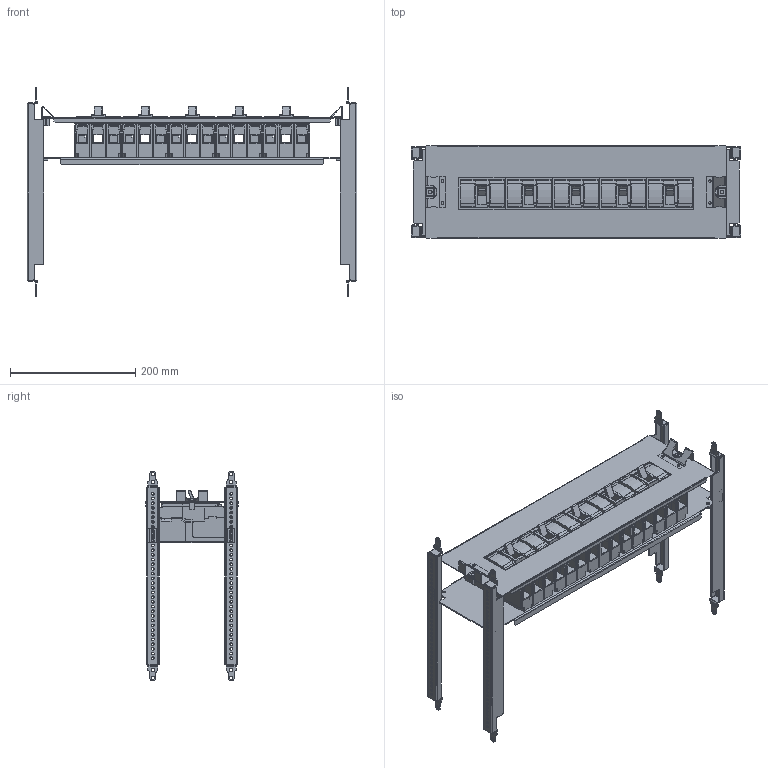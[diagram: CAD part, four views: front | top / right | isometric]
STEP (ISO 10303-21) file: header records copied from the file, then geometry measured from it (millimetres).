
FILE_DESCRIPTION(('CAx-IF Rec.Pracs.---Model Styling and Organization---1.2---2011-12-15','CAx-IF Rec.Pracs.---Geometric and Assembly Validation Properties---4.1---2014-06-16','CAx-IF Rec.Pracs.---PMI Polyline Presentation---2.0---2013-05-24'),'2;1');
FILE_NAME('R5PKIB7V61111.stp','2021-07-29T03:08:16+03:00',(''),(''),'STEP Interface 4.4 by CT CoreTechnologie','3D_Evolution4.4 by CT CoreTechnologie','');
FILE_SCHEMA(('AUTOMOTIVE_DESIGN { 1 0 10303 214 1 1 1 1 }'));
Length unit declared in the file: millimetre
Products named in the file (1): R5PKIB7V61111
Bounding box: 526 x 148 x 335 mm (x, y, z)
Surface area: 804968.9 mm2 (no closed solid volume)
Topology: 0 solids, 103 shells, 4307 faces, 15429 edges, 11036 vertices
Faces by surface type: plane 2843, cylinder 1382, bspline 82
Entity records: 168168 total; most frequent: CARTESIAN_POINT 35085, DIRECTION 26903, ORIENTED_EDGE 26367, EDGE_CURVE 15421, VECTOR 11811, LINE 11811, VERTEX_POINT 11036, AXIS2_PLACEMENT_3D 7546
